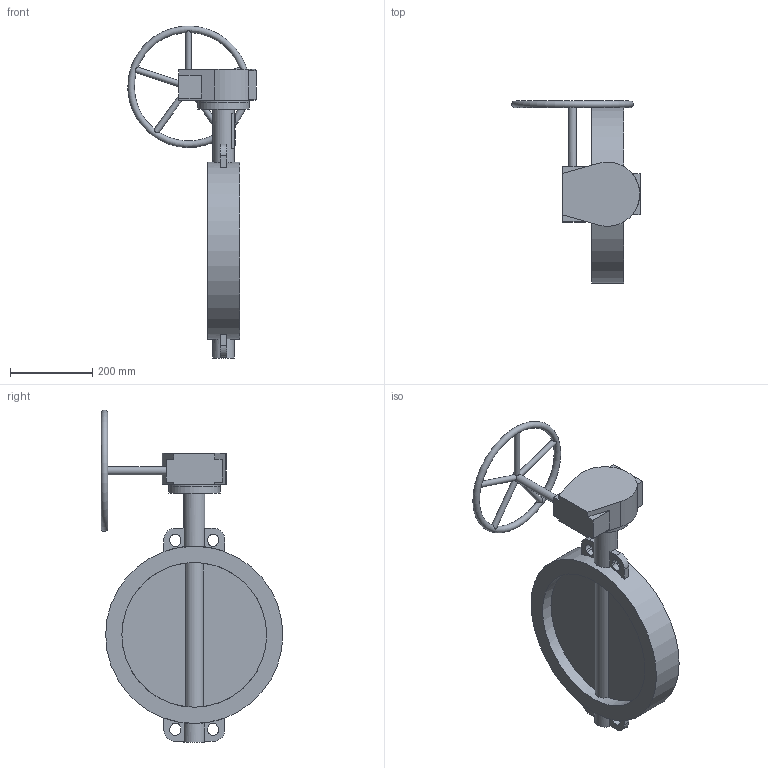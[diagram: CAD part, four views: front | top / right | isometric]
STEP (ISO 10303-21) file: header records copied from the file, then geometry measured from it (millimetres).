
FILE_DESCRIPTION(('STEP AP203'), '1');
FILE_NAME('青蜮铕 017W.ZS DN350 PN10_16 疱潴牝铕', '', ('UNSPECIFIED'), ('UNSPECIFIED'), 'ASCON STEP Converter 1.6', 'ASCON Math Kernel', '');
FILE_SCHEMA(('CONFIG_CONTROL_DESIGN'));
Length unit declared in the file: millimetre
Bounding box: 311.4 x 441 x 805.5 mm (x, y, z)
Volume: 2232772.9 mm3; surface area: 735194.3 mm2
Topology: 1 solids, 2 shells, 850 faces, 2524 edges, 1628 vertices
Faces by surface type: cylinder 635, plane 214, torus 1
Full cylindrical faces by diameter (mm): 8.5 x4, 12 x4, 14 x5, 20 x2, 31.6 x1, 52 x2, 70 x1, 125 x2, 351.5 x2, 430 x1
Entity records: 38252 total; most frequent: CARTESIAN_POINT 7507, DIRECTION 5498, ORIENTED_EDGE 4920, EDGE_CURVE 2499, AXIS2_PLACEMENT_3D 2187, VERTEX_POINT 1627, CIRCLE 1336, LINE 1124
